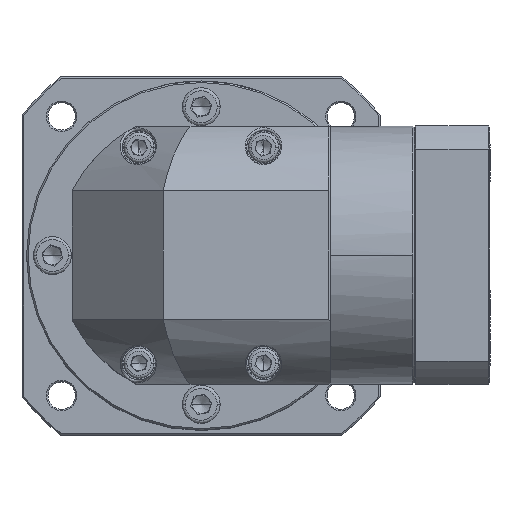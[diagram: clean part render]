
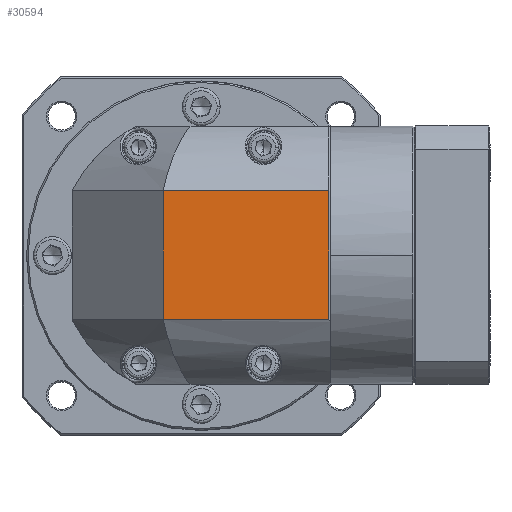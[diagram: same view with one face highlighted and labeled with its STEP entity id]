
A CAD part, top view. The second image highlights one B-rep face of the part: STEP entity #30594.
In plain terms, the highlighted planar face has unit normal (0, 0, 1).
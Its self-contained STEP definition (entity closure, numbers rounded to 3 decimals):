
#252 = DIRECTION ( 'NONE',  ( 0., 1., 0. ) ) ;
#6776 = DIRECTION ( 'NONE',  ( 1., 0., 0. ) ) ;
#8581 = ORIENTED_EDGE ( 'NONE', *, *, #96040, .F. ) ;
#8606 = FACE_OUTER_BOUND ( 'NONE', #71690, .T. ) ;
#10886 = CARTESIAN_POINT ( 'NONE',  ( -22.163, 84.263, -16.295 ) ) ;
#15435 = VERTEX_POINT ( 'NONE', #62687 ) ;
#24385 = LINE ( 'NONE', #105588, #37882 ) ;
#27216 = CARTESIAN_POINT ( 'NONE',  ( 35.837, 105.476, -16.295 ) ) ;
#28875 = DIRECTION ( 'NONE',  ( -1., 0., 0. ) ) ;
#30506 = VECTOR ( 'NONE', #28875, 1000. ) ;
#30594 = ADVANCED_FACE ( 'NONE', ( #8606 ), #64953, .T. ) ;
#37882 = VECTOR ( 'NONE', #96325, 1000. ) ;
#45263 = LINE ( 'NONE', #87980, #57246 ) ;
#48063 = ORIENTED_EDGE ( 'NONE', *, *, #73721, .F. ) ;
#54506 = CARTESIAN_POINT ( 'NONE',  ( 23.337, 126.69, -16.295 ) ) ;
#57246 = VECTOR ( 'NONE', #252, 1000. ) ;
#62687 = CARTESIAN_POINT ( 'NONE',  ( 23.337, 84.263, -16.295 ) ) ;
#64953 = PLANE ( 'NONE',  #76984 ) ;
#71690 = EDGE_LOOP ( 'NONE', ( #48063, #118645, #8581, #107144 ) ) ;
#73721 = EDGE_CURVE ( 'NONE', #103004, #89504, #24385, .T. ) ;
#76984 = AXIS2_PLACEMENT_3D ( 'NONE', #27216, #102067, #6776 ) ;
#77557 = VERTEX_POINT ( 'NONE', #102629 ) ;
#81027 = CARTESIAN_POINT ( 'NONE',  ( 23.337, 105.476, -16.295 ) ) ;
#82957 = LINE ( 'NONE', #10886, #30506 ) ;
#87980 = CARTESIAN_POINT ( 'NONE',  ( 77.837, 105.476, -16.295 ) ) ;
#89504 = VERTEX_POINT ( 'NONE', #90294 ) ;
#90294 = CARTESIAN_POINT ( 'NONE',  ( 77.837, 126.69, -16.295 ) ) ;
#91388 = VECTOR ( 'NONE', #101435, 1000. ) ;
#96040 = EDGE_CURVE ( 'NONE', #77557, #15435, #82957, .T. ) ;
#96325 = DIRECTION ( 'NONE',  ( 1., 0., 0. ) ) ;
#101435 = DIRECTION ( 'NONE',  ( 0., 1., 0. ) ) ;
#102067 = DIRECTION ( 'NONE',  ( 0., 0., 1. ) ) ;
#102629 = CARTESIAN_POINT ( 'NONE',  ( 77.837, 84.263, -16.295 ) ) ;
#103004 = VERTEX_POINT ( 'NONE', #54506 ) ;
#105588 = CARTESIAN_POINT ( 'NONE',  ( -22.163, 126.69, -16.295 ) ) ;
#106270 = EDGE_CURVE ( 'NONE', #77557, #89504, #45263, .T. ) ;
#107144 = ORIENTED_EDGE ( 'NONE', *, *, #106270, .T. ) ;
#115313 = LINE ( 'NONE', #81027, #91388 ) ;
#117373 = EDGE_CURVE ( 'NONE', #15435, #103004, #115313, .T. ) ;
#118645 = ORIENTED_EDGE ( 'NONE', *, *, #117373, .F. ) ;
